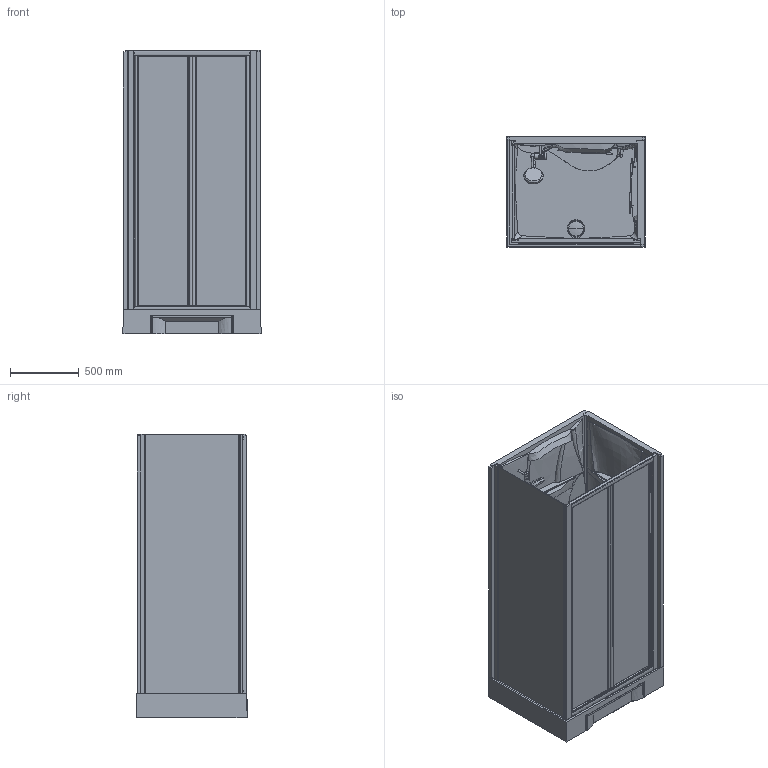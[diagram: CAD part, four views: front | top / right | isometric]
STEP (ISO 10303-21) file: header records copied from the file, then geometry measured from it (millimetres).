
FILE_DESCRIPTION(('STEP AP203'),'2;1');
FILE_NAME('NNH S 100 T.stp','2015-09-04T14:44:00',(''),(''),'2014.1.117','THINKDESIGN','');
FILE_SCHEMA(('CONFIG_CONTROL_DESIGN'));
Length unit declared in the file: millimetre
Products named in the file (1): top
Bounding box: 1004.04 x 807.53 x 2063.06 mm (x, y, z)
Volume: 223690652 mm3; surface area: 18339416.9 mm2
Topology: 25 solids, 25 shells, 581 faces, 1542 edges, 1005 vertices
Faces by surface type: bspline 313, plane 221, cylinder 47
Entity records: 61897 total; most frequent: CARTESIAN_POINT 49974, ORIENTED_EDGE 2968, EDGE_CURVE 1484, DIRECTION 1453, VERTEX_POINT 968, VECTOR 677, LINE 677, EDGE_LOOP 590
